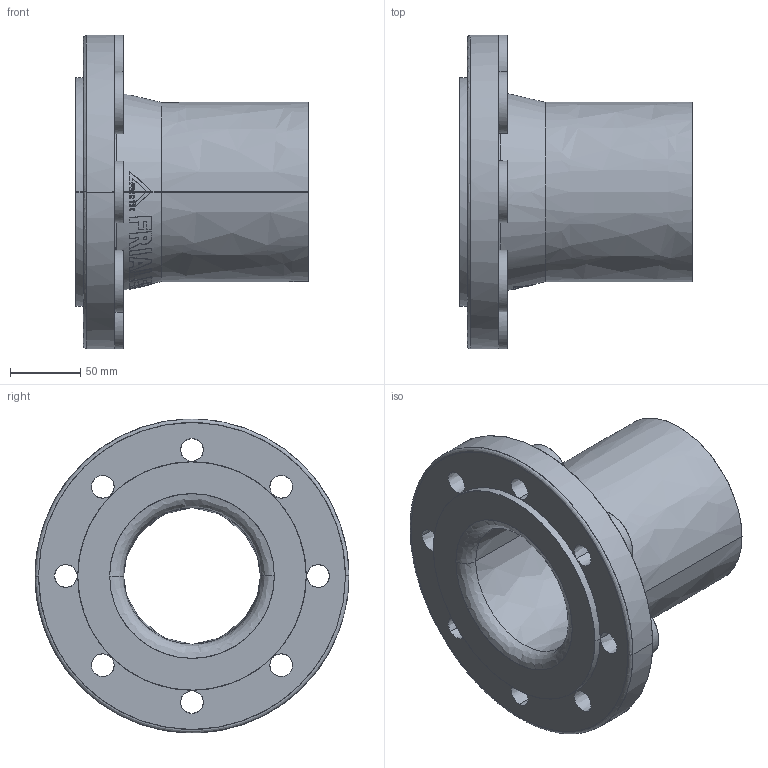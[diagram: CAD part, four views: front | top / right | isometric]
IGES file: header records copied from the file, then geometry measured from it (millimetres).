
Start section:  PTC IGES file: efl_d125_dn100_01.igs
Global section: file name: efl_d125_dn100_01.igs; native system: Pro/ENGINEER by Parametric Technology Corporation; preprocessor: 2011490; author: mtunjic; organization: Unknown; date: 20130819.135329; units: millimetre
Bounding box: 166 x 224 x 224 mm (x, y, z)
Surface area: 203684.4 mm2 (no closed solid volume)
Topology: 0 solids, 0 shells, 430 faces, 2104 edges, 2104 vertices
Faces by surface type: bspline 430
